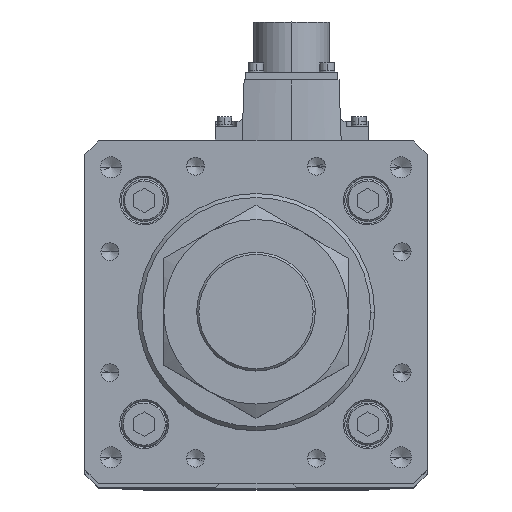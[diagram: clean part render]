
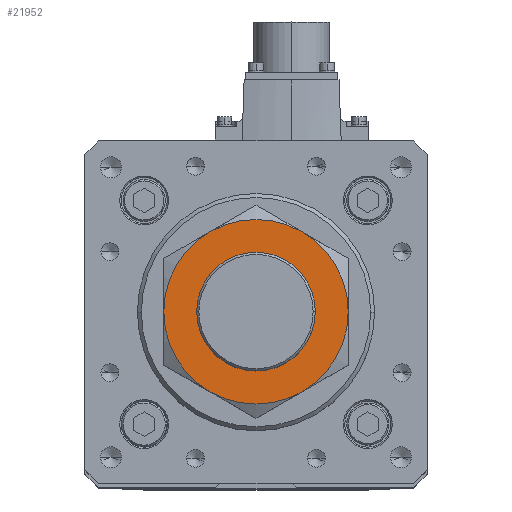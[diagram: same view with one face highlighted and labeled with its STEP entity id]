
A CAD part, top view. The second image highlights one B-rep face of the part: STEP entity #21952.
In plain terms, the highlighted planar face has unit normal (0, 0, 1).
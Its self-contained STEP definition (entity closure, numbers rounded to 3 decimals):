
#457 = DIRECTION ( 'NONE',  ( 0., 0., -1. ) ) ;
#692 = DIRECTION ( 'NONE',  ( 0., 0., 1. ) ) ;
#1772 = ORIENTED_EDGE ( 'NONE', *, *, #7433, .F. ) ;
#1903 = VERTEX_POINT ( 'NONE', #3728 ) ;
#2338 = VERTEX_POINT ( 'NONE', #8685 ) ;
#2538 = CIRCLE ( 'NONE', #8467, 22.5 ) ;
#3397 = PLANE ( 'NONE',  #34591 ) ;
#3728 = CARTESIAN_POINT ( 'NONE',  ( -22.5, 0., 27. ) ) ;
#3902 = EDGE_LOOP ( 'NONE', ( #10218, #1772, #34828, #29551, #5350, #36509 ) ) ;
#4281 = DIRECTION ( 'NONE',  ( -1., 0., 0. ) ) ;
#4806 = DIRECTION ( 'NONE',  ( 0., 0., -1. ) ) ;
#5350 = ORIENTED_EDGE ( 'NONE', *, *, #13572, .F. ) ;
#5744 = CARTESIAN_POINT ( 'NONE',  ( 17.5, 30.311, 27. ) ) ;
#5851 = VERTEX_POINT ( 'NONE', #10864 ) ;
#5967 = EDGE_CURVE ( 'NONE', #26523, #2338, #11926, .T. ) ;
#6123 = ORIENTED_EDGE ( 'NONE', *, *, #21813, .F. ) ;
#7433 = EDGE_CURVE ( 'NONE', #36975, #26523, #26533, .T. ) ;
#8467 = AXIS2_PLACEMENT_3D ( 'NONE', #34129, #28327, #20274 ) ;
#8685 = CARTESIAN_POINT ( 'NONE',  ( 17.5, -30.311, 27. ) ) ;
#9182 = CARTESIAN_POINT ( 'NONE',  ( 0., 0., 27. ) ) ;
#9226 = DIRECTION ( 'NONE',  ( 0., 0., -1. ) ) ;
#9526 = DIRECTION ( 'NONE',  ( 1., 0., 0. ) ) ;
#10218 = ORIENTED_EDGE ( 'NONE', *, *, #5967, .F. ) ;
#10864 = CARTESIAN_POINT ( 'NONE',  ( 22.5, 0., 27. ) ) ;
#11173 = CIRCLE ( 'NONE', #34978, 35. ) ;
#11366 = DIRECTION ( 'NONE',  ( 0., 0., 1. ) ) ;
#11573 = AXIS2_PLACEMENT_3D ( 'NONE', #14801, #9226, #35597 ) ;
#11926 = CIRCLE ( 'NONE', #31819, 35. ) ;
#12708 = EDGE_CURVE ( 'NONE', #35130, #15184, #11173, .T. ) ;
#13300 = CARTESIAN_POINT ( 'NONE',  ( -17.5, -30.311, 27. ) ) ;
#13366 = FACE_BOUND ( 'NONE', #26598, .T. ) ;
#13570 = DIRECTION ( 'NONE',  ( -1., 0., 0. ) ) ;
#13572 = EDGE_CURVE ( 'NONE', #20770, #35130, #16143, .T. ) ;
#13684 = CARTESIAN_POINT ( 'NONE',  ( 0., 0., 27. ) ) ;
#14362 = DIRECTION ( 'NONE',  ( 1., 0., 0. ) ) ;
#14801 = CARTESIAN_POINT ( 'NONE',  ( 0., 0., 27. ) ) ;
#14835 = CARTESIAN_POINT ( 'NONE',  ( 0., 0., 27. ) ) ;
#15184 = VERTEX_POINT ( 'NONE', #31312 ) ;
#16143 = CIRCLE ( 'NONE', #18885, 35. ) ;
#16201 = CIRCLE ( 'NONE', #32624, 22.5 ) ;
#16809 = CARTESIAN_POINT ( 'NONE',  ( 0., 0., 27. ) ) ;
#17457 = DIRECTION ( 'NONE',  ( 0., 0., -1. ) ) ;
#18885 = AXIS2_PLACEMENT_3D ( 'NONE', #13684, #36689, #4281 ) ;
#20018 = CARTESIAN_POINT ( 'NONE',  ( -35., 0., 27. ) ) ;
#20274 = DIRECTION ( 'NONE',  ( 1., 0., 0. ) ) ;
#20770 = VERTEX_POINT ( 'NONE', #13300 ) ;
#21517 = ORIENTED_EDGE ( 'NONE', *, *, #27857, .F. ) ;
#21813 = EDGE_CURVE ( 'NONE', #1903, #5851, #16201, .T. ) ;
#21875 = CARTESIAN_POINT ( 'NONE',  ( 35., 0., 27. ) ) ;
#21952 = ADVANCED_FACE ( 'NONE', ( #31898, #13366 ), #3397, .T. ) ;
#23827 = EDGE_CURVE ( 'NONE', #2338, #20770, #36004, .T. ) ;
#23905 = DIRECTION ( 'NONE',  ( -1., 0., 0. ) ) ;
#26167 = AXIS2_PLACEMENT_3D ( 'NONE', #14835, #35498, #23905 ) ;
#26523 = VERTEX_POINT ( 'NONE', #21875 ) ;
#26533 = CIRCLE ( 'NONE', #26167, 35. ) ;
#26598 = EDGE_LOOP ( 'NONE', ( #6123, #21517 ) ) ;
#27721 = EDGE_CURVE ( 'NONE', #15184, #36975, #34423, .T. ) ;
#27857 = EDGE_CURVE ( 'NONE', #5851, #1903, #2538, .T. ) ;
#28327 = DIRECTION ( 'NONE',  ( 0., 0., 1. ) ) ;
#29109 = CARTESIAN_POINT ( 'NONE',  ( 0., 0., 27. ) ) ;
#29551 = ORIENTED_EDGE ( 'NONE', *, *, #12708, .F. ) ;
#30130 = CARTESIAN_POINT ( 'NONE',  ( 0., 0., 27. ) ) ;
#31312 = CARTESIAN_POINT ( 'NONE',  ( -17.5, 30.311, 27. ) ) ;
#31819 = AXIS2_PLACEMENT_3D ( 'NONE', #32222, #17457, #32725 ) ;
#31898 = FACE_OUTER_BOUND ( 'NONE', #3902, .T. ) ;
#32222 = CARTESIAN_POINT ( 'NONE',  ( 0., 0., 27. ) ) ;
#32624 = AXIS2_PLACEMENT_3D ( 'NONE', #29109, #11366, #14362 ) ;
#32725 = DIRECTION ( 'NONE',  ( -1., 0., 0. ) ) ;
#32775 = AXIS2_PLACEMENT_3D ( 'NONE', #16809, #4806, #13570 ) ;
#34129 = CARTESIAN_POINT ( 'NONE',  ( 0., 0., 27. ) ) ;
#34423 = CIRCLE ( 'NONE', #32775, 35. ) ;
#34591 = AXIS2_PLACEMENT_3D ( 'NONE', #30130, #692, #9526 ) ;
#34828 = ORIENTED_EDGE ( 'NONE', *, *, #27721, .F. ) ;
#34978 = AXIS2_PLACEMENT_3D ( 'NONE', #9182, #457, #35814 ) ;
#35130 = VERTEX_POINT ( 'NONE', #20018 ) ;
#35498 = DIRECTION ( 'NONE',  ( 0., 0., -1. ) ) ;
#35597 = DIRECTION ( 'NONE',  ( -1., 0., 0. ) ) ;
#35814 = DIRECTION ( 'NONE',  ( -1., 0., 0. ) ) ;
#36004 = CIRCLE ( 'NONE', #11573, 35. ) ;
#36509 = ORIENTED_EDGE ( 'NONE', *, *, #23827, .F. ) ;
#36689 = DIRECTION ( 'NONE',  ( 0., 0., -1. ) ) ;
#36975 = VERTEX_POINT ( 'NONE', #5744 ) ;
